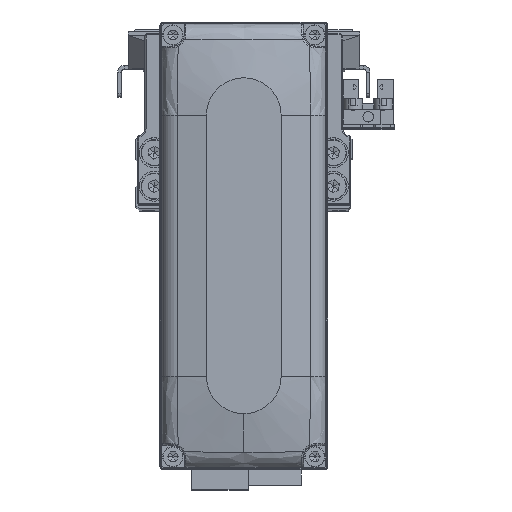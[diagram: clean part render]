
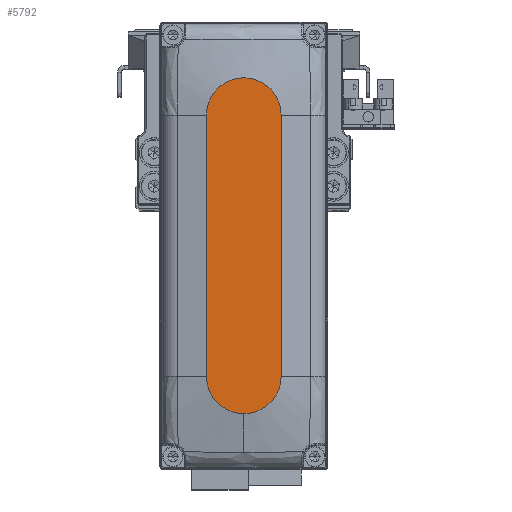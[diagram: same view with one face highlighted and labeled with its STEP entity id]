
A CAD part, top view. The second image highlights one B-rep face of the part: STEP entity #5792.
In plain terms, the highlighted planar face has unit normal (0, 0, 1).
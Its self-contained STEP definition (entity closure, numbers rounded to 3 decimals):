
#1621 = EDGE_CURVE ( 'NONE', #4639, #26373, #36790, .T. ) ;
#1668 = ORIENTED_EDGE ( 'NONE', *, *, #5330, .T. ) ;
#3661 = DIRECTION ( 'NONE',  ( 1., 0., 0. ) ) ;
#4639 = VERTEX_POINT ( 'NONE', #37592 ) ;
#5330 = EDGE_CURVE ( 'NONE', #31180, #4639, #22813, .T. ) ;
#5436 = CARTESIAN_POINT ( 'NONE',  ( -35., 0., 28. ) ) ;
#5792 = ADVANCED_FACE ( 'NONE', ( #35581 ), #6815, .T. ) ;
#6077 = CARTESIAN_POINT ( 'NONE',  ( 35., 0., 28. ) ) ;
#6815 = PLANE ( 'NONE',  #10135 ) ;
#6869 = DIRECTION ( 'NONE',  ( 1., 0., 0. ) ) ;
#10135 = AXIS2_PLACEMENT_3D ( 'NONE', #19629, #32439, #3661 ) ;
#11638 = DIRECTION ( 'NONE',  ( -1., 0., 0. ) ) ;
#13966 = CARTESIAN_POINT ( 'NONE',  ( 35., 0., 28. ) ) ;
#15460 = VERTEX_POINT ( 'NONE', #27892 ) ;
#16087 = AXIS2_PLACEMENT_3D ( 'NONE', #5436, #18243, #31060 ) ;
#16982 = CARTESIAN_POINT ( 'NONE',  ( 45., 0., 28. ) ) ;
#17511 = CARTESIAN_POINT ( 'NONE',  ( 35., 10., 28. ) ) ;
#17580 = VERTEX_POINT ( 'NONE', #17511 ) ;
#18243 = DIRECTION ( 'NONE',  ( 0., 0., 1. ) ) ;
#18698 = AXIS2_PLACEMENT_3D ( 'NONE', #6077, #18894, #31705 ) ;
#18894 = DIRECTION ( 'NONE',  ( 0., 0., 1. ) ) ;
#19143 = AXIS2_PLACEMENT_3D ( 'NONE', #13966, #26787, #39579 ) ;
#19629 = CARTESIAN_POINT ( 'NONE',  ( 0., 0., 28. ) ) ;
#20599 = VECTOR ( 'NONE', #11638, 1000. ) ;
#22813 = LINE ( 'NONE', #35632, #28217 ) ;
#24996 = EDGE_CURVE ( 'NONE', #26373, #17580, #37232, .T. ) ;
#25611 = ORIENTED_EDGE ( 'NONE', *, *, #35990, .T. ) ;
#26373 = VERTEX_POINT ( 'NONE', #16982 ) ;
#26787 = DIRECTION ( 'NONE',  ( 0., 0., 1. ) ) ;
#27613 = LINE ( 'NONE', #40390, #20599 ) ;
#27892 = CARTESIAN_POINT ( 'NONE',  ( -35., 10., 28. ) ) ;
#28217 = VECTOR ( 'NONE', #6869, 1000. ) ;
#30173 = CARTESIAN_POINT ( 'NONE',  ( -35., -10., 28. ) ) ;
#30556 = ORIENTED_EDGE ( 'NONE', *, *, #40790, .T. ) ;
#31060 = DIRECTION ( 'NONE',  ( 1., 0., 0. ) ) ;
#31180 = VERTEX_POINT ( 'NONE', #30173 ) ;
#31705 = DIRECTION ( 'NONE',  ( 1., 0., 0. ) ) ;
#32439 = DIRECTION ( 'NONE',  ( 0., 0., 1. ) ) ;
#34170 = ORIENTED_EDGE ( 'NONE', *, *, #24996, .T. ) ;
#34197 = CIRCLE ( 'NONE', #16087, 10. ) ;
#35245 = EDGE_LOOP ( 'NONE', ( #25611, #30556, #1668, #39070, #34170 ) ) ;
#35581 = FACE_OUTER_BOUND ( 'NONE', #35245, .T. ) ;
#35632 = CARTESIAN_POINT ( 'NONE',  ( -35., -10., 28. ) ) ;
#35990 = EDGE_CURVE ( 'NONE', #17580, #15460, #27613, .T. ) ;
#36790 = CIRCLE ( 'NONE', #18698, 10. ) ;
#37232 = CIRCLE ( 'NONE', #19143, 10. ) ;
#37592 = CARTESIAN_POINT ( 'NONE',  ( 35., -10., 28. ) ) ;
#39070 = ORIENTED_EDGE ( 'NONE', *, *, #1621, .T. ) ;
#39579 = DIRECTION ( 'NONE',  ( 1., 0., 0. ) ) ;
#40390 = CARTESIAN_POINT ( 'NONE',  ( -35., 10., 28. ) ) ;
#40790 = EDGE_CURVE ( 'NONE', #15460, #31180, #34197, .T. ) ;
